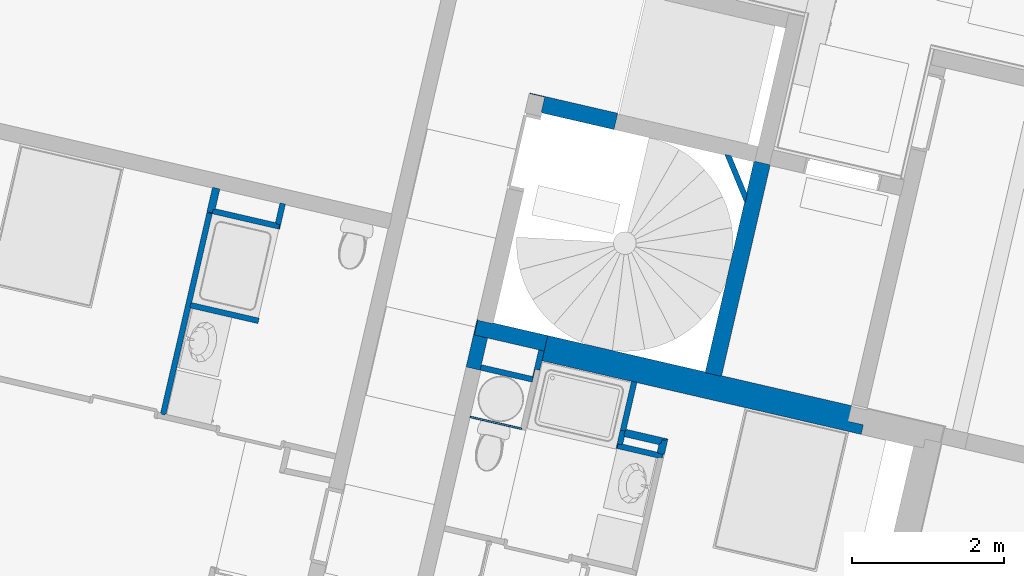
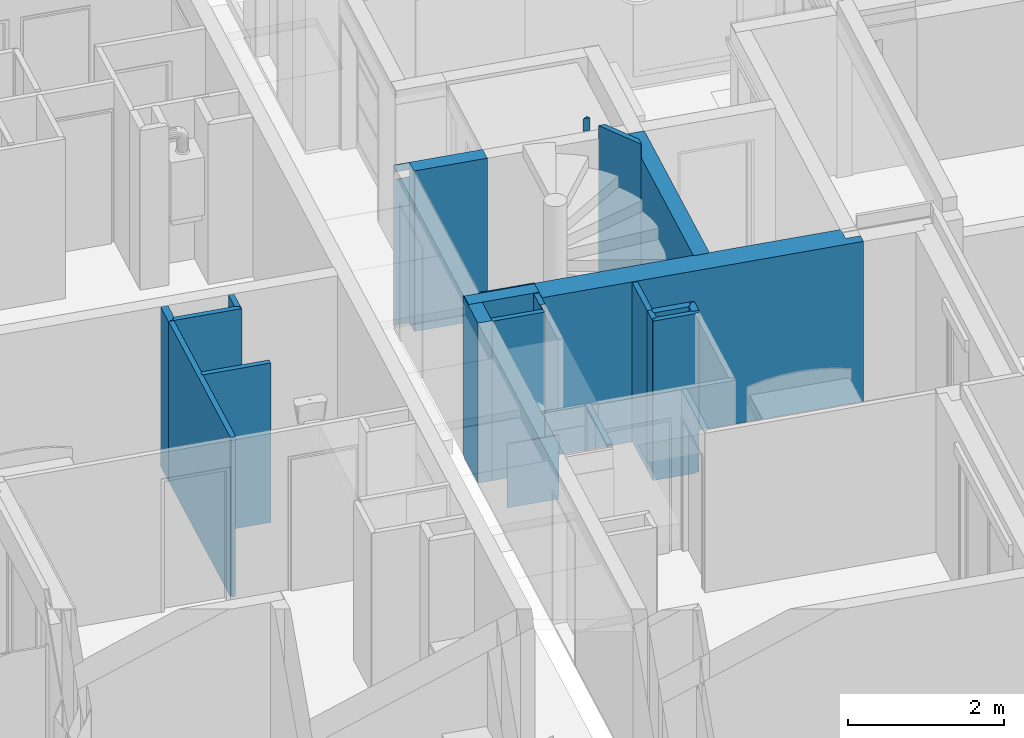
# One storey, part 45 of 119: 19 walls.
"""IFC2X3 building model written with IfcOpenShell, lengths in metres."""

from ifc_helpers import new_model, entity, si_unit, converted_unit, derived_unit, money_unit, direction, frame, origin_with_axes, place, context, subcontext, project, spatial, faceted_brep, material, material_list, type_object, element, save


model = new_model("IFC2X3")

# Units and contexts
model_context = context("Model", 3, precision=1e-05, world=origin_with_axes(), true_north=direction((0.0, 1.0)))
body_context = subcontext(model_context, "Body", "Model", "MODEL_VIEW")
ifc_project = project(units=[si_unit("LENGTHUNIT", "METRE"), si_unit("AREAUNIT", "SQUARE_METRE"), si_unit("VOLUMEUNIT", "CUBIC_METRE"), converted_unit("PLANEANGLEUNIT", "DEGREE", entity("IfcPlaneAngleMeasure", 0.0174532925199), si_unit("PLANEANGLEUNIT", "RADIAN"), dimensions=[0, 0, 0, 0, 0, 0, 0]), si_unit("SOLIDANGLEUNIT", "STERADIAN"), money_unit("EUR"), converted_unit("TIMEUNIT", "Year", entity("IfcTimeMeasure", 31556926.0), si_unit("TIMEUNIT", "SECOND"), dimensions=[0, 0, 1, 0, 0, 0, 0]), si_unit("MASSUNIT", "GRAM", prefix="KILO"), si_unit("THERMODYNAMICTEMPERATUREUNIT", "DEGREE_CELSIUS"), si_unit("LUMINOUSINTENSITYUNIT", "LUMEN"), si_unit("ENERGYUNIT", "JOULE", prefix="MEGA"), derived_unit("THERMALCONDUCTANCEUNIT", [(si_unit("POWERUNIT", "WATT"), 1), (si_unit("LENGTHUNIT", "METRE"), -1), (si_unit("THERMODYNAMICTEMPERATUREUNIT", "KELVIN"), -1)]), derived_unit("SPECIFICHEATCAPACITYUNIT", [(si_unit("ENERGYUNIT", "JOULE"), 1), (si_unit("MASSUNIT", "GRAM", prefix="KILO"), -1), (si_unit("THERMODYNAMICTEMPERATUREUNIT", "KELVIN"), -1)]), derived_unit("MASSDENSITYUNIT", [(si_unit("MASSUNIT", "GRAM", prefix="KILO"), 1), (si_unit("VOLUMEUNIT", "CUBIC_METRE"), -1)])], contexts=[model_context])

# Site, building, storey
site_placement = place(None, origin_with_axes())
site = spatial("IfcSite", under=ifc_project, at=site_placement, Name="Site", CompositionType="ELEMENT")
building_placement = place(site_placement, origin_with_axes())
building = spatial("IfcBuilding", under=site, at=building_placement, Name="Bâtiment", CompositionType="ELEMENT")
storey_placement = place(building_placement, origin_with_axes())
storey = spatial("IfcBuildingStorey", under=building, at=storey_placement, Name="Rez-de-chaussée", CompositionType="ELEMENT", Elevation=0.0)

# Walls
ifc_material_1 = material(Name="Cloison - Carreaux de plâtre")
wall_type_1 = type_object("IfcWallType", Name="Cloison - Carreaux de plâtre 74", PredefinedType="USERDEFINED")
wall_1_placement = place(storey_placement, frame((-8.31029544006, -6.29006190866, 0.0), z_axis=(0.0, 0.0, 1.0), x_axis=(0.383112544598, -0.92370167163, 0.0)))
element("IfcWall", 1, at=wall_1_placement, inside=storey, type_object=wall_type_1, material=ifc_material_1, Name="Carreaux de plâtre 8cm", ObjectType="PARTITIONING", context=body_context, shape_type="Brep", body=[
    faceted_brep([(0.0, 0.074, 2.72), (1.50750967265e-10, -1.07618802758e-10, 2.72), (0.0528269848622, 0.074, 2.72), (0.0, 0.074, 2.52), (1.04330766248e-10, 0.0, 2.52), (0.0528269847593, 0.0739999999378, 2.52)], [[[0, 1, 2]], [[3, 4, 1, 0]], [[4, 5, 2, 1]], [[0, 2, 5, 3]], [[3, 5, 4]]]),
    faceted_brep([(0.298560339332, 0.074, 2.72), (0.844290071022, 0.074, 2.72), (0.844290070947, 0.074, 0.0), (0.298560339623, 0.074, 0.0), (0.930738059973, 0.0, 2.72), (0.930738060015, 0.0122866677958, 2.72), (0.245733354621, 0.0, 2.72), (0.93073805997, 0.0122866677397, 2.52), (0.947949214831, 0.0, 2.52), (0.947949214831, 0.0, 0.0), (0.245733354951, 0.0, 0.0), (0.930738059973, 0.0, 2.52)], [[[0, 1, 2, 3]], [[4, 5, 1, 0, 6]], [[2, 1, 5, 7, 8, 9]], [[2, 9, 10, 3]], [[6, 0, 3, 10]], [[11, 7, 5, 4]], [[4, 6, 10, 9, 8, 11]], [[7, 11, 8]]]),
])
ifc_material_2 = material(Name="Finition int - Plaque de plâtre")
ifc_material_3 = material(Name="Isolation - Laine de roche")
ifc_material_list_1 = material_list([ifc_material_2, ifc_material_3, ifc_material_2])
wall_type_2 = type_object("IfcWallType", Name="3 - Cloison 72mm Placostil 74", PredefinedType="USERDEFINED")
wall_2_placement = place(storey_placement, frame((-14.9622417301, -7.30105524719, 0.0), z_axis=(0.0, 0.0, 1.0), x_axis=(-0.224876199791, -0.974387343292, 0.0)))
element("IfcWall", 2, at=wall_2_placement, inside=storey, type_object=wall_type_2, material=ifc_material_list_1, Name="Cloison Placostil 72/48", ObjectType="PARTITIONING", context=body_context, shape_type="Brep", body=[
    faceted_brep([(1.21299999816, -0.013, 2.5), (1.21299999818, 0.0, 2.5), (0.0, 0.0, 2.5), (0.0, -0.013, 2.5), (1.21299999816, -0.013, 0.0), (1.21299999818, 0.0, 0.0), (0.0, 0.0, 0.0), (0.0, -0.013, 0.0)], [[[0, 1, 2, 3]], [[1, 0, 4, 5]], [[1, 5, 6, 2]], [[7, 3, 2, 6]], [[4, 0, 3, 7]], [[5, 4, 7, 6]]]),
    faceted_brep([(2.70946720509, -0.013, 2.5), (2.7094672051, 0.0, 2.5), (1.26099999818, 0.0, 2.5), (1.26099999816, -0.013, 2.5), (2.70946720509, -0.013, 0.0), (2.7094672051, 0.0, 0.0), (1.26099999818, 0.0, 0.0), (1.26099999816, -0.013, 0.0)], [[[0, 1, 2, 3]], [[1, 0, 4, 5]], [[1, 5, 6, 2]], [[7, 3, 2, 6]], [[4, 0, 3, 7]], [[5, 4, 7, 6]]]),
    faceted_brep([(2.72246720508, -0.061, 2.5), (2.72246720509, -0.013, 2.5), (0.0, -0.013, 2.5), (0.0, -0.061, 2.5), (2.72246720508, -0.061, 0.0), (2.72246720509, -0.013, 0.0), (0.0, -0.013, 0.0), (0.0, -0.061, 0.0)], [[[0, 1, 2, 3]], [[1, 0, 4, 5]], [[1, 5, 6, 2]], [[7, 3, 2, 6]], [[4, 0, 3, 7]], [[5, 4, 7, 6]]]),
    faceted_brep([(2.70946720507, -0.074, 2.5), (2.70946720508, -0.061, 2.5), (0.0, -0.061, 2.5), (0.0, -0.074, 2.5), (2.70946720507, -0.074, 0.0), (2.70946720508, -0.061, 0.0), (0.0, -0.061, 0.0), (0.0, -0.074, 0.0)], [[[0, 1, 2, 3]], [[1, 0, 4, 5]], [[1, 5, 6, 2]], [[7, 3, 2, 6]], [[4, 0, 3, 7]], [[5, 4, 7, 6]]]),
])
wall_3_placement = place(storey_placement, frame((-9.44101238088, -9.50308462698, 0.0), z_axis=(0.0, 0.0, 1.0), x_axis=(-0.224876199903, -0.974387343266, 0.0)))
element("IfcWall", 3, at=wall_3_placement, inside=storey, type_object=wall_type_2, material=ifc_material_list_1, Name="Cloison Placostil 72/48", ObjectType="PARTITIONING", context=body_context, shape_type="Brep", body=[
    faceted_brep([(0.0, 0.074, 0.0), (0.662000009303, 0.074, 0.0), (0.662000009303, 0.061, 0.0), (0.0, 0.061, 0.0), (0.0, 0.074, 2.5), (0.662000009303, 0.074, 2.5), (0.662000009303, 0.061, 2.5), (0.0, 0.061, 2.5)], [[[0, 1, 2, 3]], [[4, 5, 1, 0]], [[2, 1, 5, 6]], [[3, 2, 6, 7]], [[4, 0, 3, 7]], [[7, 6, 5, 4]]]),
    faceted_brep([(0.0, 0.061, 0.0), (0.662000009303, 0.061, 0.0), (0.662000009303, 0.013, 0.0), (0.0, 0.013, 0.0), (0.0, 0.061, 2.5), (0.662000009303, 0.061, 2.5), (0.662000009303, 0.013, 2.5), (0.0, 0.013, 2.5)], [[[0, 1, 2, 3]], [[4, 5, 1, 0]], [[2, 1, 5, 6]], [[3, 2, 6, 7]], [[4, 0, 3, 7]], [[7, 6, 5, 4]]]),
    faceted_brep([(0.0, 0.013, 0.0), (0.662000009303, 0.013, 0.0), (0.662000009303, 0.0, 0.0), (0.0, 0.0, 0.0), (0.0, 0.013, 2.5), (0.662000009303, 0.013, 2.5), (0.662000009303, 0.0, 2.5), (0.0, 0.0, 2.5)], [[[0, 1, 2, 3]], [[4, 5, 1, 0]], [[2, 1, 5, 6]], [[3, 2, 6, 7]], [[4, 0, 3, 7]], [[7, 6, 5, 4]]]),
])
wall_4_placement = place(storey_placement, frame((-15.2320931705, -8.47032005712, 0.0), z_axis=(0.0, 0.0, 1.0), x_axis=(0.974387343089, -0.22487620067, 0.0)))
element("IfcWall", 4, at=wall_4_placement, inside=storey, type_object=wall_type_2, material=ifc_material_list_1, Name="Cloison Placostil 72/48", ObjectType="PARTITIONING", context=body_context, shape_type="Brep", body=[
    faceted_brep([(1.07204201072e-09, -0.013, 2.5), (0.909999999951, -0.013, 2.5), (0.909999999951, 0.0, 2.5), (1.06031450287e-09, 0.0, 2.5), (1.07204201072e-09, -0.013, 0.0), (0.909999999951, -0.013, 0.0), (0.909999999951, 0.0, 0.0), (1.06031450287e-09, 0.0, 0.0)], [[[0, 1, 2, 3]], [[4, 5, 1, 0]], [[2, 1, 5, 6]], [[3, 2, 6, 7]], [[4, 0, 3, 7]], [[7, 6, 5, 4]]]),
    faceted_brep([(-0.0129999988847, -0.061, 2.5), (0.909999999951, -0.061, 2.5), (0.909999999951, -0.013, 2.5), (-0.012999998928, -0.013, 2.5), (-0.0129999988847, -0.061, 0.0), (0.909999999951, -0.061, 0.0), (0.909999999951, -0.013, 0.0), (-0.012999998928, -0.013, 0.0)], [[[0, 1, 2, 3]], [[4, 5, 1, 0]], [[2, 1, 5, 6]], [[3, 2, 6, 7]], [[4, 0, 3, 7]], [[7, 6, 5, 4]]]),
    faceted_brep([(1.12706644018e-09, -0.074, 2.5), (0.909999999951, -0.074, 2.5), (0.909999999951, -0.061, 2.5), (1.11533893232e-09, -0.061, 2.5), (1.12706644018e-09, -0.074, 0.0), (0.909999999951, -0.074, 0.0), (0.909999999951, -0.061, 0.0), (1.11533893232e-09, -0.061, 0.0)], [[[0, 1, 2, 3]], [[4, 5, 1, 0]], [[2, 1, 5, 6]], [[3, 2, 6, 7]], [[4, 0, 3, 7]], [[7, 6, 5, 4]]]),
])
ifc_material_4 = material(Name="Finition int - Enduit plâtre")
ifc_material_5 = material(Name="Béton")
ifc_material_list_2 = material_list([ifc_material_4, ifc_material_5, ifc_material_4])
wall_type_3 = type_object("IfcWallType", Name="2 - Murs Béton 20 + Enduit 2 Faces  220", PredefinedType="USERDEFINED")
wall_5_placement = place(storey_placement, frame((-7.78337008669, -6.41166957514, 0.0), z_axis=(0.0, 0.0, 1.0), x_axis=(-0.224876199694, -0.974387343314, 0.0)))
element("IfcWall", 5, at=wall_5_placement, inside=storey, type_object=wall_type_3, material=ifc_material_list_2, Name="M_Ext-009", ObjectType="SOLIDWALL", context=body_context, shape_type="Brep", body=[
    faceted_brep([(0.210000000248, 0.21, 2.51), (0.210000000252, 0.22, 2.51), (0.210000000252, 0.22, 0.0), (0.210000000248, 0.21, 0.0), (3.0499999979, 0.22, 2.51), (3.0499999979, 0.21, 2.51), (3.0499999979, 0.22, 0.0), (3.0499999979, 0.21, 0.0)], [[[0, 1, 2, 3]], [[4, 1, 0, 5]], [[1, 4, 6, 2]], [[2, 6, 7, 3]], [[5, 0, 3, 7]], [[4, 5, 7, 6]]]),
    faceted_brep([(0.200000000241, 0.00999999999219, 2.51), (0.200000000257, 0.21, 2.51), (0.200000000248, 0.21, 0.0), (0.20000000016, 0.01, 0.0), (3.05999999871, 0.21, 2.51), (3.05999999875, 0.0100000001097, 2.51), (3.0599999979, 0.21, 0.0), (3.05999999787, 0.01, 0.0)], [[[0, 1, 2, 3]], [[4, 1, 0, 5]], [[1, 4, 6, 2]], [[2, 6, 7, 3]], [[5, 0, 3, 7]], [[4, 5, 7, 6]]]),
    faceted_brep([(3.05999999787, 0.01, 2.51), (3.04999999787, 0.01, 2.51), (3.04999999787, 0.01, 0.0), (0.771526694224, 0.01, 0.0), (0.771526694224, 0.01, 2.52), (3.05999999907, 0.01, 2.52), (3.04999999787, 0.0, 2.51), (3.05999999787, 0.0, 2.51), (3.04999999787, 0.0, 0.0), (0.757518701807, 0.0, 0.0), (0.757518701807, 0.0, 2.52), (3.05999999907, 0.0, 2.52)], [[[0, 1, 2, 3, 4, 5]], [[6, 1, 0, 7]], [[8, 2, 1, 6]], [[3, 2, 8, 9]], [[10, 4, 3, 9]], [[4, 10, 11, 5]], [[11, 7, 0, 5]], [[8, 6, 7, 11, 10, 9]]]),
    faceted_brep([(0.644164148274, 0.01, 2.52), (0.644164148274, 0.01, 0.0), (0.21000000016, 0.01, 0.0), (0.21000000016, 0.01, 2.52), (0.630156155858, 0.0, 0.0), (0.630156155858, 0.0, 2.52), (0.210000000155, 0.0, 0.0), (0.210000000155, 0.0, 2.52)], [[[0, 1, 2, 3]], [[4, 1, 0, 5]], [[1, 4, 6, 2]], [[3, 2, 6, 7]], [[5, 0, 3, 7]], [[4, 5, 7, 6]]]),
])
wall_6_placement = place(storey_placement, frame((-9.62496216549, -5.98665355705, 0.0), z_axis=(0.0, 0.0, 1.0), x_axis=(-0.974387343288, 0.224876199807, 0.0)))
element("IfcWall", 6, at=wall_6_placement, inside=storey, type_object=wall_type_3, material=ifc_material_list_2, Name="M_Ext-009", ObjectType="SOLIDWALL", context=body_context, shape_type="Brep", body=[
    faceted_brep([(0.974999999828, 0.2, 0.0), (0.0, 0.2, 0.0), (0.0, 0.21, 0.0), (0.974999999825, 0.21, 0.0), (0.974999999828, 0.2, 2.52), (0.0, 0.2, 2.52), (0.0, 0.21, 2.52), (0.974999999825, 0.21, 2.52)], [[[0, 1, 2, 3]], [[4, 5, 1, 0]], [[2, 1, 5, 6]], [[3, 2, 6, 7]], [[3, 7, 4, 0]], [[7, 6, 5, 4]]]),
    faceted_brep([(0.98499999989, 0.0, 2.51), (0.0, 6.38959996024e-10, 2.51), (0.0, 0.0, 0.0), (0.98499999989, 0.0, 0.0), (0.0, 0.199999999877, 2.51), (0.984999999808, 0.199999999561, 2.51), (0.0, 0.2, 0.0), (0.984999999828, 0.2, 0.0)], [[[0, 1, 2, 3]], [[4, 1, 0, 5]], [[1, 4, 6, 2]], [[7, 3, 2, 6]], [[5, 0, 3, 7]], [[4, 5, 7, 6]]]),
    faceted_brep([(1.18499999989, -0.01, 2.51), (0.0, -0.01, 2.51), (0.0, -0.01, 2.4), (1.18499999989, -0.01, 2.4), (0.0, 6.38959996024e-10, 2.51), (1.18499999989, 0.0, 2.51), (0.0, 0.0, 2.4), (1.17999999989, 0.0, 2.4), (1.18499999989, -0.00333333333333, 2.4), (1.18499999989, -0.00333333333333, 2.287), (1.18499999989, -0.01, 2.287), (1.18499999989, -0.01, 0.0), (1.18499999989, 0.0, 0.0), (0.0, 0.0, 0.0), (0.0, 0.0, 2.287), (1.17999999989, 0.0, 2.287), (0.0, -0.01, 2.287), (0.0, -0.01, 0.0)], [[[0, 1, 2, 3]], [[4, 1, 0, 5]], [[1, 4, 6, 2]], [[3, 2, 6, 7, 8]], [[5, 0, 3, 8, 9, 10, 11, 12]], [[4, 5, 12, 13, 14, 15, 7, 6]], [[8, 7, 15, 9]], [[14, 16, 10, 9, 15]], [[10, 16, 17, 11]], [[12, 11, 17, 13]], [[16, 14, 13, 17]]]),
])
wall_type_4 = type_object("IfcWallType", Name="3 - Cloison Gaine Technique 72mm 74", PredefinedType="USERDEFINED")
wall_7_placement = place(storey_placement, frame((-9.64564972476, -10.3897771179, 0.0), z_axis=(0.0, 0.0, 1.0), x_axis=(0.974387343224, -0.224876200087, 0.0)))
element("IfcWall", 7, at=wall_7_placement, inside=storey, type_object=wall_type_4, material=ifc_material_list_1, Name="Cloison Placostil 72/48", ObjectType="PARTITIONING", context=body_context, shape_type="Brep", body=[
    faceted_brep([(0.637000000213, 0.074, 0.0), (0.637000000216, 0.061, 0.0), (0.626000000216, 0.061, 0.0), (0.626000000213, 0.074, 0.0), (0.637000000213, 0.074, 2.5), (0.637000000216, 0.061, 2.5), (0.626000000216, 0.061, 2.5), (0.626000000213, 0.074, 2.5)], [[[0, 1, 2, 3]], [[1, 0, 4, 5]], [[1, 5, 6, 2]], [[7, 3, 2, 6]], [[4, 0, 3, 7]], [[5, 4, 7, 6]]]),
    faceted_brep([(0.552000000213, 0.074, 0.0), (0.552000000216, 0.061, 0.0), (0.0609999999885, 0.061, 0.0), (0.0609999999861, 0.074, 0.0), (0.552000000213, 0.074, 2.5), (0.552000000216, 0.061, 2.5), (0.0609999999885, 0.061, 2.5), (0.0609999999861, 0.074, 2.5)], [[[0, 1, 2, 3]], [[1, 0, 4, 5]], [[1, 5, 6, 2]], [[7, 3, 2, 6]], [[4, 0, 3, 7]], [[5, 4, 7, 6]]]),
    faceted_brep([(0.624000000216, 0.061, 0.0), (0.624000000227, 0.013, 0.0), (0.0129999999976, 0.013, 0.0), (0.0129999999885, 0.061, 0.0), (0.624000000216, 0.061, 2.5), (0.624000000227, 0.013, 2.5), (0.0129999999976, 0.013, 2.5), (0.0129999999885, 0.061, 2.5)], [[[0, 1, 2, 3]], [[1, 0, 4, 5]], [[1, 5, 6, 2]], [[7, 3, 2, 6]], [[4, 0, 3, 7]], [[5, 4, 7, 6]]]),
    faceted_brep([(0.576000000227, 0.013, 0.0), (0.57600000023, 0.0, 0.0), (0.0, 0.0, 0.0), (0.0, 0.013, 0.0), (0.576000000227, 0.013, 2.5), (0.57600000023, 0.0, 2.5), (0.0, 0.0, 2.5), (0.0, 0.013, 2.5)], [[[0, 1, 2, 3]], [[1, 0, 4, 5]], [[1, 5, 6, 2]], [[7, 3, 2, 6]], [[4, 0, 3, 7]], [[5, 4, 7, 6]]]),
])
wall_8_placement = place(storey_placement, frame((-9.58988042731, -10.1481290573, 0.0), z_axis=(0.0, 0.0, 1.0), x_axis=(-0.224876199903, -0.974387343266, 0.0)))
element("IfcWall", 8, at=wall_8_placement, inside=storey, type_object=wall_type_4, material=ifc_material_list_1, Name="Cloison Placostil 72/48", ObjectType="PARTITIONING", context=body_context, shape_type="Brep", body=[
    faceted_brep([(0.173999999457, 0.074, 0.0), (0.173999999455, 0.061, 0.0), (0.0610000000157, 0.061, 0.0), (0.0610000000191, 0.074, 0.0), (0.173999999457, 0.074, 2.5), (0.173999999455, 0.061, 2.5), (0.0610000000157, 0.061, 2.5), (0.0610000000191, 0.074, 2.5)], [[[0, 1, 2, 3]], [[1, 0, 4, 5]], [[1, 5, 6, 2]], [[7, 3, 2, 6]], [[4, 0, 3, 7]], [[5, 4, 7, 6]]]),
    faceted_brep([(0.186999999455, 0.061, 0.0), (0.186999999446, 0.013, 0.0), (0.0, 0.013, 0.0), (0.0, 0.061, 0.0), (0.186999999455, 0.061, 2.5), (0.186999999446, 0.013, 2.5), (0.0, 0.013, 2.5), (0.0, 0.061, 2.5)], [[[0, 1, 2, 3]], [[1, 0, 4, 5]], [[1, 5, 6, 2]], [[7, 3, 2, 6]], [[4, 0, 3, 7]], [[5, 4, 7, 6]]]),
    faceted_brep([(0.234999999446, 0.013, 0.0), (0.234999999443, 0.0, 0.0), (0.0, 0.0, 0.0), (0.0, 0.013, 0.0), (0.234999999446, 0.013, 2.5), (0.234999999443, 0.0, 2.5), (0.0, 0.0, 2.5), (0.0, 0.013, 2.5)], [[[0, 1, 2, 3]], [[1, 0, 4, 5]], [[1, 5, 6, 2]], [[7, 3, 2, 6]], [[4, 0, 3, 7]], [[5, 4, 7, 6]]]),
])
wall_9_placement = place(storey_placement, frame((-10.689507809, -9.53207011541, 0.0), z_axis=(0.0, 0.0, 1.0), x_axis=(-0.974387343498, 0.224876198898, 0.0)))
element("IfcWall", 9, at=wall_9_placement, inside=storey, type_object=wall_type_4, material=ifc_material_list_1, Name="Cloison Placostil 72/48", ObjectType="PARTITIONING", context=body_context, shape_type="Brep", body=[
    faceted_brep([(0.765000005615, 0.0, 2.5), (0.0609999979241, 0.0, 2.5), (0.0609999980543, -0.013, 2.5), (0.765000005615, -0.013, 2.5), (0.765000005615, 0.0, 0.0), (0.0609999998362, 0.0, 0.0), (0.0609999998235, -0.013, 0.0), (0.765000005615, -0.013, 0.0)], [[[0, 1, 2, 3]], [[4, 5, 1, 0]], [[5, 6, 2, 1]], [[3, 2, 6, 7]], [[4, 0, 3, 7]], [[7, 6, 5, 4]]]),
    faceted_brep([(0.0609999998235, -0.013, 2.5), (0.0609999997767, -0.061, 2.5), (0.765000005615, -0.061, 2.5), (0.765000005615, -0.013, 2.5), (0.0609999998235, -0.013, 0.0), (0.0609999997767, -0.061, 0.0), (0.765000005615, -0.061, 0.0), (0.765000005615, -0.013, 0.0)], [[[0, 1, 2, 3]], [[4, 5, 1, 0]], [[1, 5, 6, 2]], [[7, 3, 2, 6]], [[4, 0, 3, 7]], [[5, 4, 7, 6]]]),
    faceted_brep([(0.0739999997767, -0.061, 2.5), (0.073999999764, -0.074, 2.5), (0.765000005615, -0.074, 2.5), (0.765000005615, -0.061, 2.5), (0.0739999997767, -0.061, 0.0), (0.073999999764, -0.074, 0.0), (0.765000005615, -0.074, 0.0), (0.765000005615, -0.061, 0.0)], [[[0, 1, 2, 3]], [[4, 5, 1, 0]], [[1, 5, 6, 2]], [[7, 3, 2, 6]], [[4, 0, 3, 7]], [[5, 4, 7, 6]]]),
])
wall_10_placement = place(storey_placement, frame((-10.5919115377, -9.10918600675, 0.0), z_axis=(0.0, 0.0, 1.0), x_axis=(-0.224876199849, -0.974387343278, 0.0)))
element("IfcWall", 10, at=wall_10_placement, inside=storey, type_object=wall_type_4, material=ifc_material_list_1, Name="Cloison Placostil 72/48", ObjectType="PARTITIONING", context=body_context, shape_type="Brep", body=[
    faceted_brep([(0.0, -0.013, 2.5), (0.260000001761, -0.013, 2.5), (0.260000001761, 0.0, 2.5), (0.0, 0.0, 2.5), (0.0, -0.013, 0.0), (0.260000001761, -0.013, 0.0), (0.260000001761, 0.0, 0.0), (0.0, 0.0, 0.0)], [[[0, 1, 2, 3]], [[4, 5, 1, 0]], [[5, 6, 2, 1]], [[3, 2, 6, 7]], [[7, 4, 0, 3]], [[7, 6, 5, 4]]]),
    faceted_brep([(0.0, -0.061, 2.5), (0.260000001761, -0.061, 2.5), (0.260000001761, -0.013, 2.5), (0.0, -0.013, 2.5), (0.0, -0.061, 0.0), (0.260000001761, -0.061, 0.0), (0.260000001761, -0.013, 0.0), (0.0, -0.013, 0.0)], [[[0, 1, 2, 3]], [[4, 5, 1, 0]], [[5, 6, 2, 1]], [[3, 2, 6, 7]], [[7, 4, 0, 3]], [[7, 6, 5, 4]]]),
    faceted_brep([(0.0, -0.074, 2.5), (0.373000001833, -0.074, 2.5), (0.37300000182, -0.061, 2.5), (0.0, -0.061, 2.5), (0.0, -0.074, 0.0), (0.373000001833, -0.074, 0.0), (0.37300000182, -0.061, 0.0), (0.0, -0.061, 0.0)], [[[0, 1, 2, 3]], [[4, 5, 1, 0]], [[6, 2, 1, 5]], [[3, 2, 6, 7]], [[7, 4, 0, 3]], [[7, 6, 5, 4]]]),
])
wall_11_placement = place(storey_placement, frame((-14.075549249, -7.50569258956, 0.0), z_axis=(0.0, 0.0, 1.0), x_axis=(0.224876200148, 0.97438734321, 0.0)))
element("IfcWall", 11, at=wall_11_placement, inside=storey, type_object=wall_type_4, material=ifc_material_list_1, Name="Cloison Placostil 72/48", ObjectType="PARTITIONING", context=body_context, shape_type="Brep", body=[
    faceted_brep([(0.342000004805, 0.074, 0.0), (0.342000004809, 0.061, 0.0), (0.0740000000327, 0.061, 0.0), (0.0740000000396, 0.074, 0.0), (0.342000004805, 0.074, 2.5), (0.342000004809, 0.061, 2.5), (0.0740000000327, 0.061, 2.5), (0.0740000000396, 0.074, 2.5)], [[[0, 1, 2, 3]], [[1, 0, 4, 5]], [[1, 5, 6, 2]], [[7, 3, 2, 6]], [[4, 0, 3, 7]], [[5, 4, 7, 6]]]),
    faceted_brep([(0.342000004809, 0.061, 0.0), (0.342000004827, 0.013, 0.0), (0.061000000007, 0.013, 0.0), (0.0610000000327, 0.061, 0.0), (0.342000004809, 0.061, 2.5), (0.342000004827, 0.013, 2.5), (0.061000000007, 0.013, 2.5), (0.0610000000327, 0.061, 2.5)], [[[0, 1, 2, 3]], [[1, 0, 4, 5]], [[1, 5, 6, 2]], [[7, 3, 2, 6]], [[4, 0, 3, 7]], [[5, 4, 7, 6]]]),
    faceted_brep([(0.342000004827, 0.013, 0.0), (0.342000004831, 0.0, 0.0), (0.013, 0.0, 0.0), (0.013000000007, 0.013, 0.0), (0.342000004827, 0.013, 2.5), (0.342000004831, 0.0, 2.5), (0.013, 0.0, 2.5), (0.013000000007, 0.013, 2.5)], [[[0, 1, 2, 3]], [[1, 0, 4, 5]], [[1, 5, 6, 2]], [[7, 3, 2, 6]], [[4, 0, 3, 7]], [[5, 4, 7, 6]]]),
])
wall_12_placement = place(storey_placement, frame((-14.9388564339, -7.306452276, 0.0), z_axis=(0.0, 0.0, 1.0), x_axis=(0.974387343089, -0.22487620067, 0.0)))
element("IfcWall", 12, at=wall_12_placement, inside=storey, type_object=wall_type_4, material=ifc_material_list_1, Name="Cloison Placostil 72/48", ObjectType="PARTITIONING", context=body_context, shape_type="Brep", body=[
    faceted_brep([(0.824999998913, 0.074, 0.0), (0.82499999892, 0.061, 0.0), (0.0, 0.061, 0.0), (0.0, 0.074, 0.0), (0.824999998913, 0.074, 2.5), (0.82499999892, 0.061, 2.5), (0.0, 0.061, 2.5), (0.0, 0.074, 2.5)], [[[0, 1, 2, 3]], [[1, 0, 4, 5]], [[1, 5, 6, 2]], [[7, 3, 2, 6]], [[4, 0, 3, 7]], [[5, 4, 7, 6]]]),
    faceted_brep([(0.87299999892, 0.061, 0.0), (0.872999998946, 0.013, 0.0), (-0.0260000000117, 0.013, 0.0), (-0.026000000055, 0.061, 0.0), (0.87299999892, 0.061, 2.5), (0.872999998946, 0.013, 2.5), (-0.0260000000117, 0.013, 2.5), (-0.026000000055, 0.061, 2.5)], [[[0, 1, 2, 3]], [[1, 0, 4, 5]], [[1, 5, 6, 2]], [[7, 3, 2, 6]], [[4, 0, 3, 7]], [[5, 4, 7, 6]]]),
    faceted_brep([(0.885999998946, 0.013, 0.0), (0.885999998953, 0.0, 0.0), (-0.074, 0.0, 0.0), (-0.0740000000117, 0.013, 0.0), (0.885999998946, 0.013, 2.5), (0.885999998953, 0.0, 2.5), (-0.074, 0.0, 2.5), (-0.0740000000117, 0.013, 2.5)], [[[0, 1, 2, 3]], [[1, 0, 4, 5]], [[1, 5, 6, 2]], [[7, 3, 2, 6]], [[4, 0, 3, 7]], [[5, 4, 7, 6]]]),
])
ifc_material_list_3 = material_list([ifc_material_5, ifc_material_4])
wall_type_5 = type_object("IfcWallType", Name="2 - Murs Béton 18 + Enduit 1 Face 190", PredefinedType="USERDEFINED")
wall_13_placement = place(storey_placement, frame((-11.4677323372, -8.70180052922, 0.0), z_axis=(0.0, 0.0, 1.0), x_axis=(-0.224876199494, -0.97438734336, 0.0)))
element("IfcWall", 13, at=wall_13_placement, inside=storey, type_object=wall_type_5, material=ifc_material_list_3, Name="M_Ext-009", ObjectType="SOLIDWALL", context=body_context, shape_type="Brep", body=[
    faceted_brep([(0.2, 0.0, 2.51), (0.200000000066, 0.18, 2.51), (0.200000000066, 0.18, 0.0), (0.2, 0.0, 0.0), (0.634000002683, 0.18, 2.51), (0.634000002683, 0.0, 2.51), (0.634000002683, 0.18, 0.0), (0.634000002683, 0.0, 0.0)], [[[0, 1, 2, 3]], [[4, 1, 0, 5]], [[1, 4, 6, 2]], [[2, 6, 7, 3]], [[5, 0, 3, 7]], [[4, 5, 7, 6]]]),
    faceted_brep([(-0.0100000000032, -0.00883051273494, 0.02), (-0.0100000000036, -0.01, 0.02), (-0.0100000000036, -0.01, 2.51), (-0.01, 0.0, 2.51), (-0.01, 0.0, 0.0), (-0.0100000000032, -0.00883051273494, 0.0), (-0.0100000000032, -0.00883051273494, 0.005), (0.634000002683, -0.00825632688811, 0.02), (0.634000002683, -0.01, 0.02), (0.634000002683, -0.01, 2.51), (0.634000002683, 0.0, 2.51), (0.634000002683, 0.0, 0.0), (0.634000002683, -0.00825632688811, 0.0), (0.634000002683, -0.00825632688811, 0.005)], [[[0, 1, 2, 3, 4, 5, 6]], [[1, 0, 7, 8]], [[1, 8, 9, 2]], [[10, 3, 2, 9]], [[3, 10, 11, 4]], [[12, 5, 4, 11]], [[13, 6, 5, 12]], [[0, 6, 13, 7]], [[7, 13, 12, 11, 10, 9, 8]]]),
])
ifc_material_list_4 = material_list([ifc_material_2, ifc_material_2, ifc_material_3, ifc_material_2, ifc_material_2])
wall_type_6 = type_object("IfcWallType", Name="3 - Cloison Gaine Technique 98mm 100", PredefinedType="USERDEFINED")
wall_14_placement = place(storey_placement, frame((-9.08132648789, -10.3414419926, 0.0), z_axis=(0.0, 0.0, 1.0), x_axis=(-0.224876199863, -0.974387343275, 0.0)))
element("IfcWall", 14, at=wall_14_placement, inside=storey, type_object=wall_type_6, material=ifc_material_list_4, Name="Cloison 98 isolée", ObjectType="PARTITIONING", context=body_context, shape_type="Brep", body=[
    faceted_brep([(0.0999999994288, 0.1, 0.0), (0.0999999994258, 0.087, 0.0), (-0.0999999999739, 0.087, 0.0), (-0.09999999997, 0.1, 0.0), (0.0999999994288, 0.1, 2.5), (0.0999999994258, 0.087, 2.5), (-0.0999999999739, 0.087, 2.5), (-0.09999999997, 0.1, 2.5)], [[[0, 1, 2, 3]], [[1, 0, 4, 5]], [[1, 5, 6, 2]], [[7, 3, 2, 6]], [[4, 0, 3, 7]], [[5, 4, 7, 6]]]),
    faceted_brep([(0.112999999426, 0.087, 0.0), (0.112999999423, 0.074, 0.0), (-0.0869999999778, 0.074, 0.0), (-0.0869999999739, 0.087, 0.0), (0.112999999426, 0.087, 2.5), (0.112999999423, 0.074, 2.5), (-0.0869999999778, 0.074, 2.5), (-0.0869999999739, 0.087, 2.5)], [[[0, 1, 2, 3]], [[1, 0, 4, 5]], [[1, 5, 6, 2]], [[7, 3, 2, 6]], [[4, 0, 3, 7]], [[5, 4, 7, 6]]]),
    faceted_brep([(0.112999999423, 0.074, 0.0), (0.112999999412, 0.026, 0.0), (-0.0739999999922, 0.026, 0.0), (-0.0739999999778, 0.074, 0.0), (0.112999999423, 0.074, 2.5), (0.112999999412, 0.026, 2.5), (-0.0739999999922, 0.026, 2.5), (-0.0739999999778, 0.074, 2.5)], [[[0, 1, 2, 3]], [[1, 0, 4, 5]], [[1, 5, 6, 2]], [[7, 3, 2, 6]], [[4, 0, 3, 7]], [[5, 4, 7, 6]]]),
    faceted_brep([(0.112999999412, 0.026, 0.0), (0.112999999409, 0.013, 0.0), (-0.0259999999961, 0.013, 0.0), (-0.0259999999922, 0.026, 0.0), (0.112999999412, 0.026, 2.5), (0.112999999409, 0.013, 2.5), (-0.0259999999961, 0.013, 2.5), (-0.0259999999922, 0.026, 2.5)], [[[0, 1, 2, 3]], [[1, 0, 4, 5]], [[1, 5, 6, 2]], [[7, 3, 2, 6]], [[4, 0, 3, 7]], [[5, 4, 7, 6]]]),
    faceted_brep([(0.0999999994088, 0.013, 0.0), (0.0999999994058, 0.0, 0.0), (-0.013, 0.0, 0.0), (-0.0129999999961, 0.013, 0.0), (0.0999999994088, 0.013, 2.5), (0.0999999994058, 0.0, 2.5), (-0.013, 0.0, 2.5), (-0.0129999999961, 0.013, 2.5)], [[[0, 1, 2, 3]], [[1, 0, 4, 5]], [[1, 5, 6, 2]], [[7, 3, 2, 6]], [[4, 0, 3, 7]], [[5, 4, 7, 6]]]),
])
wall_15_placement = place(storey_placement, frame((-14.8619487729, -6.97321180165, 0.0), z_axis=(0.0, 0.0, 1.0), x_axis=(-0.224876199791, -0.974387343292, 0.0)))
element("IfcWall", 15, at=wall_15_placement, inside=storey, type_object=wall_type_6, material=ifc_material_list_4, Name="Cloison 98 isolée", ObjectType="PARTITIONING", context=body_context, shape_type="Brep", body=[
    faceted_brep([(0.281000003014, -0.013, 2.5), (0.281000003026, 0.0, 2.5), (-1.01377395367e-09, 0.0, 2.5), (-1.0138840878e-09, -0.013, 2.5), (0.281000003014, -0.013, 0.0), (0.281000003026, 0.0, 0.0), (-1.01377395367e-09, 0.0, 0.0), (-1.0138840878e-09, -0.013, 0.0)], [[[0, 1, 2, 3]], [[1, 0, 4, 5]], [[1, 5, 6, 2]], [[7, 3, 2, 6]], [[4, 0, 3, 7]], [[5, 4, 7, 6]]]),
    faceted_brep([(0.281000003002, -0.026, 2.5), (0.281000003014, -0.013, 2.5), (-1.0138840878e-09, -0.013, 2.5), (-1.01399422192e-09, -0.026, 2.5), (0.281000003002, -0.026, 0.0), (0.281000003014, -0.013, 0.0), (-1.0138840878e-09, -0.013, 0.0), (-1.01399422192e-09, -0.026, 0.0)], [[[0, 1, 2, 3]], [[1, 0, 4, 5]], [[1, 5, 6, 2]], [[7, 3, 2, 6]], [[4, 0, 3, 7]], [[5, 4, 7, 6]]]),
    faceted_brep([(0.329000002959, -0.074, 2.5), (0.329000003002, -0.026, 2.5), (-1.01399422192e-09, -0.026, 2.5), (-1.01439567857e-09, -0.074, 2.5), (0.329000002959, -0.074, 0.0), (0.329000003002, -0.026, 0.0), (-1.01399422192e-09, -0.026, 0.0), (-1.01439567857e-09, -0.074, 0.0)], [[[0, 1, 2, 3]], [[1, 0, 4, 5]], [[1, 5, 6, 2]], [[7, 3, 2, 6]], [[4, 0, 3, 7]], [[5, 4, 7, 6]]]),
    faceted_brep([(0.342000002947, -0.087, 2.5), (0.342000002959, -0.074, 2.5), (-1.01439567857e-09, -0.074, 2.5), (-1.01450581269e-09, -0.087, 2.5), (0.342000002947, -0.087, 0.0), (0.342000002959, -0.074, 0.0), (-1.01439567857e-09, -0.074, 0.0), (-1.01450581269e-09, -0.087, 0.0)], [[[0, 1, 2, 3]], [[1, 0, 4, 5]], [[1, 5, 6, 2]], [[7, 3, 2, 6]], [[4, 0, 3, 7]], [[5, 4, 7, 6]]]),
    faceted_brep([(0.342000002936, -0.1, 2.5), (0.342000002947, -0.087, 2.5), (-1.01450581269e-09, -0.087, 2.5), (-1.0146123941e-09, -0.1, 2.5), (0.342000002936, -0.1, 0.0), (0.342000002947, -0.087, 0.0), (-1.01450581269e-09, -0.087, 0.0), (-1.0146123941e-09, -0.1, 0.0)], [[[0, 1, 2, 3]], [[1, 0, 4, 5]], [[1, 5, 6, 2]], [[7, 3, 2, 6]], [[4, 0, 3, 7]], [[5, 4, 7, 6]]]),
])
wall_16_placement = place(storey_placement, frame((-9.60652126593, -10.2202337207, 0.0), z_axis=(0.0, 0.0, 1.0), x_axis=(0.974387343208, -0.224876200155, 0.0)))
element("IfcWall", 16, at=wall_16_placement, inside=storey, type_object=wall_type_6, material=ifc_material_list_4, Name="Cloison 98 isolée", ObjectType="PARTITIONING", context=body_context, shape_type="Brep", body=[
    faceted_brep([(0.626000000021, 0.1, 0.0), (0.626000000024, 0.087, 0.0), (0.0739999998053, 0.087, 0.0), (0.0739999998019, 0.1, 0.0), (0.626000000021, 0.1, 2.5), (0.626000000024, 0.087, 2.5), (0.0739999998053, 0.087, 2.5), (0.0739999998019, 0.1, 2.5)], [[[0, 1, 2, 3]], [[1, 0, 4, 5]], [[1, 5, 6, 2]], [[7, 3, 2, 6]], [[4, 0, 3, 7]], [[5, 4, 7, 6]]]),
    faceted_brep([(0.613000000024, 0.087, 0.0), (0.613000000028, 0.074, 0.0), (0.0609999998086, 0.074, 0.0), (0.0609999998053, 0.087, 0.0), (0.613000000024, 0.087, 2.5), (0.613000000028, 0.074, 2.5), (0.0609999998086, 0.074, 2.5), (0.0609999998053, 0.087, 2.5)], [[[0, 1, 2, 3]], [[1, 0, 4, 5]], [[1, 5, 6, 2]], [[7, 3, 2, 6]], [[4, 0, 3, 7]], [[5, 4, 7, 6]]]),
    faceted_brep([(0.565000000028, 0.074, 0.0), (0.565000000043, 0.026, 0.0), (0.060999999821, 0.026, 0.0), (0.0609999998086, 0.074, 0.0), (0.565000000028, 0.074, 2.5), (0.565000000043, 0.026, 2.5), (0.060999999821, 0.026, 2.5), (0.0609999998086, 0.074, 2.5)], [[[0, 1, 2, 3]], [[1, 0, 4, 5]], [[1, 5, 6, 2]], [[7, 3, 2, 6]], [[4, 0, 3, 7]], [[5, 4, 7, 6]]]),
    faceted_brep([(0.552000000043, 0.026, 0.0), (0.552000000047, 0.013, 0.0), (0.0609999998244, 0.013, 0.0), (0.060999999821, 0.026, 0.0), (0.552000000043, 0.026, 2.5), (0.552000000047, 0.013, 2.5), (0.0609999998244, 0.013, 2.5), (0.060999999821, 0.026, 2.5)], [[[0, 1, 2, 3]], [[1, 0, 4, 5]], [[1, 5, 6, 2]], [[7, 3, 2, 6]], [[4, 0, 3, 7]], [[5, 4, 7, 6]]]),
    faceted_brep([(0.539000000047, 0.013, 0.0), (0.539000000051, 0.0, 0.0), (0.0739999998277, 0.0, 0.0), (0.0739999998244, 0.013, 0.0), (0.539000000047, 0.013, 2.5), (0.539000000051, 0.0, 2.5), (0.0739999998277, 0.0, 2.5), (0.0739999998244, 0.013, 2.5)], [[[0, 1, 2, 3]], [[1, 0, 4, 5]], [[1, 5, 6, 2]], [[7, 3, 2, 6]], [[4, 0, 3, 7]], [[5, 4, 7, 6]]]),
])
wall_type_7 = type_object("IfcWallType", Name="2 - Murs Béton 20 + Enduit 1 Face  210", PredefinedType="USERDEFINED")
wall_17_placement = place(storey_placement, frame((-10.5469362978, -8.91430853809, 0.0), z_axis=(0.0, 0.0, 1.0), x_axis=(-0.974387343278, 0.224876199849, 0.0)))
element("IfcWall", 17, at=wall_17_placement, inside=storey, type_object=wall_type_7, material=ifc_material_list_3, Name="M_Ext-009", ObjectType="SOLIDWALL", context=body_context, shape_type="Brep", body=[
    faceted_brep([(0.945000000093, 0.0, 2.51), (0.745000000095, 1.89254834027e-09, 2.51), (0.0, 1.63015201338e-09, 2.51), (0.0, 0.0, 0.0), (0.945000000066, 0.0, 0.0), (0.0, 0.2, 2.51), (0.945000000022, 0.2, 2.51), (0.0, 0.2, 0.0), (0.944999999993, 0.2, 0.0)], [[[0, 1, 2, 3, 4]], [[5, 2, 1, 0, 6]], [[2, 5, 7, 3]], [[8, 4, 3, 7]], [[6, 0, 4, 8]], [[5, 6, 8, 7]]]),
    faceted_brep([(0.745000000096, -0.01, 2.52), (0.745000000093, 0.0, 2.52), (0.0, 0.0, 2.52), (0.0, -0.01, 2.52), (0.745000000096, -0.01, 0.0), (0.745000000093, 0.0, 0.0), (0.0, 0.0, 0.0), (0.0, -0.01, 0.0)], [[[0, 1, 2, 3]], [[1, 0, 4, 5]], [[1, 5, 6, 2]], [[7, 3, 2, 6]], [[4, 0, 3, 7]], [[5, 4, 7, 6]]]),
])
ifc_material_6 = material(Name="Isolation - Polystyrène extrudé")
ifc_material_list_5 = material_list([ifc_material_2, ifc_material_6, ifc_material_5, ifc_material_4])
wall_type_8 = type_object("IfcWallType", Name="2 - Murs Béton 20 + Isolant 120 + Enduit 1 Faces 340", PredefinedType="USERDEFINED")
wall_18_placement = place(storey_placement, frame((-6.34245491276, -9.88464934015, 0.0), z_axis=(0.0, 0.0, 1.0), x_axis=(-0.974387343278, 0.224876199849, 0.0)))
element("IfcWall", 18, at=wall_18_placement, inside=storey, type_object=wall_type_8, material=ifc_material_list_5, Name="M_Ext-008", ObjectType="SOLIDWALL", context=body_context, shape_type="Brep", body=[
    faceted_brep([(0.0, 0.33, 0.0), (4.31499999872, 0.33, 0.0), (4.31499999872, 0.32, 0.0), (0.0, 0.32, 0.0), (0.0, 0.33, 2.51), (4.31499999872, 0.33, 2.51), (4.31499999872, 0.32, 2.51), (0.0, 0.32, 2.51)], [[[0, 1, 2, 3]], [[4, 5, 1, 0]], [[2, 1, 5, 6]], [[3, 2, 6, 7]], [[4, 0, 3, 7]], [[7, 6, 5, 4]]]),
    faceted_brep([(0.0, 0.32, 0.0), (4.31499999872, 0.32, 0.0), (4.31499999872, 0.2, 0.0), (0.0, 0.2, 0.0), (0.0, 0.32, 2.51), (4.31499999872, 0.32, 2.51), (4.31499999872, 0.2, 2.51), (0.0, 0.2, 2.51)], [[[0, 1, 2, 3]], [[4, 5, 1, 0]], [[2, 1, 5, 6]], [[3, 2, 6, 7]], [[4, 0, 3, 7]], [[7, 6, 5, 4]]]),
    faceted_brep([(0.199999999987, 0.2, 0.0), (4.31499999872, 0.2, 0.0), (4.31499999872, 0.0, 0.0), (0.2, 0.0, 0.0), (0.199999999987, 0.2, 2.51), (4.31499999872, 0.2, 2.51), (4.31499999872, 0.0, 2.51), (0.2, 0.0, 2.51)], [[[0, 1, 2, 3]], [[4, 5, 1, 0]], [[2, 1, 5, 6]], [[3, 2, 6, 7]], [[4, 0, 3, 7]], [[7, 6, 5, 4]]]),
    faceted_brep([(1.97499999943, 0.0, 0.0), (1.97499999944, -0.01, 0.0), (0.210000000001, -0.01, 0.0), (0.21, 0.0, 0.0), (1.97499999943, 0.0, 2.51), (1.97499999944, -0.01, 2.51), (0.210000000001, -0.01, 2.51), (0.21, 0.0, 2.51)], [[[0, 1, 2, 3]], [[1, 0, 4, 5]], [[1, 5, 6, 2]], [[7, 3, 2, 6]], [[4, 0, 3, 7]], [[5, 4, 7, 6]]]),
    faceted_brep([(2.17499999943, 0.0, 0.0), (4.31499999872, 0.0, 0.0), (4.31499999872, -0.01, 0.0), (2.17499999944, -0.01, 0.0), (2.17499999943, 0.0, 2.51), (4.31499999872, 0.0, 2.51), (4.31499999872, -0.01, 2.51), (2.17499999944, -0.01, 2.51)], [[[0, 1, 2, 3]], [[4, 5, 1, 0]], [[2, 1, 5, 6]], [[3, 2, 6, 7]], [[4, 0, 3, 7]], [[7, 6, 5, 4]]]),
])
ifc_material_7 = material(Name="Bois - Mélaminé blanc")
wall_type_9 = type_object("IfcWallType", Name="Bois - Mélaminé blanc 20", PredefinedType="USERDEFINED")
wall_19_placement = place(storey_placement, frame((-10.833336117, -10.1552773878, 0.0), z_axis=(0.0, 0.0, 1.0), x_axis=(-0.974387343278, 0.224876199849, 0.0)))
element("IfcWall", 19, at=wall_19_placement, inside=storey, type_object=wall_type_9, material=ifc_material_7, Name="Panneaux 20mm mélaminé blanc", ObjectType="PARTITIONING", context=body_context, shape_type="Brep", body=[
    faceted_brep([(0.0610000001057, 0.0, 1.0), (0.0610000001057, -0.02, 1.0), (0.75499999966, -0.02, 1.0), (0.75499999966, 0.0, 1.0), (0.0610000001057, 0.0, 0.0), (0.0610000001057, -0.02, 0.0), (0.75499999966, -0.02, 0.0), (0.75499999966, 0.0, 0.0)], [[[0, 1, 2, 3]], [[4, 5, 1, 0]], [[1, 5, 6, 2]], [[7, 3, 2, 6]], [[4, 0, 3, 7]], [[5, 4, 7, 6]]]),
])

save(model, "model.ifc")
